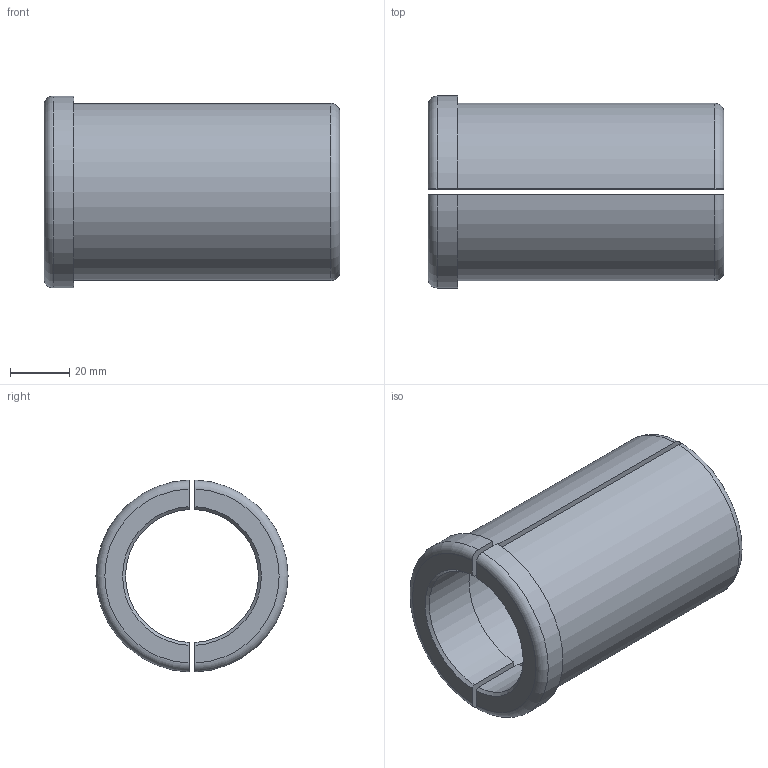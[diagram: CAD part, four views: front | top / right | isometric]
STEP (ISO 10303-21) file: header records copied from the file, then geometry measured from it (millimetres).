
FILE_DESCRIPTION((''),'2;1');
FILE_NAME('6158128970','2016-06-02T',('greextsd'),(''),'CREO PARAMETRIC BY PTC INC, 2016050','CREO PARAMETRIC BY PTC INC, 2016050','');
FILE_SCHEMA(('CONFIG_CONTROL_DESIGN'));
Length unit declared in the file: millimetre
Products named in the file (1): 6158128970
Bounding box: 100 x 65 x 64.97 mm (x, y, z)
Volume: 102874.3 mm3; surface area: 39126.9 mm2
Topology: 2 solids, 2 shells, 38 faces, 102 edges, 68 vertices
Faces by surface type: plane 14, cylinder 10, torus 8, cone 6
Entity records: 1330 total; most frequent: CARTESIAN_POINT 358, ORIENTED_EDGE 204, DIRECTION 184, EDGE_CURVE 102, AXIS2_PLACEMENT_3D 72, VERTEX_POINT 68, VECTOR 40, LINE 40
